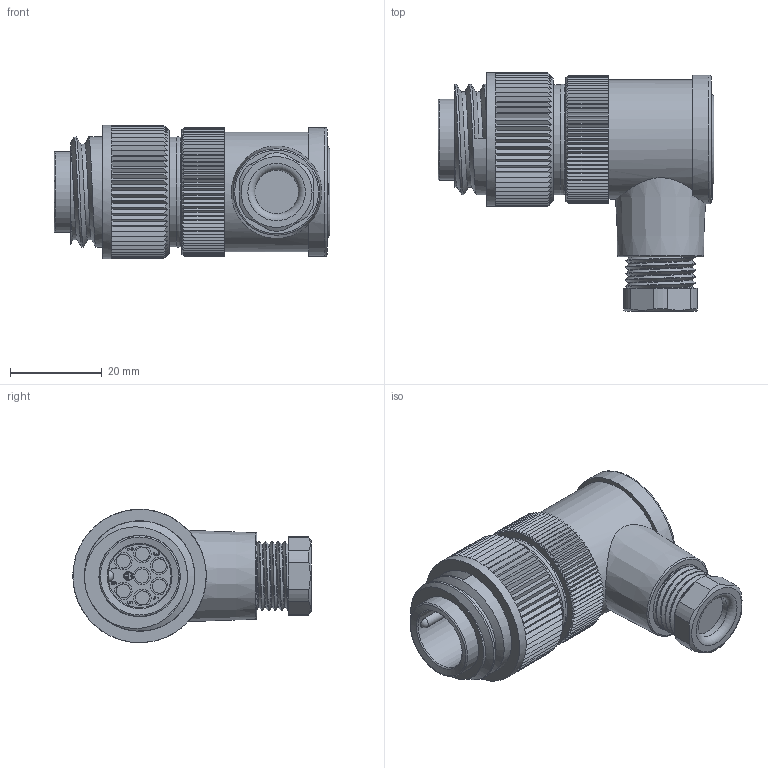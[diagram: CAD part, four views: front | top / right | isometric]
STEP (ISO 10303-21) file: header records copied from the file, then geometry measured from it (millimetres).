
FILE_DESCRIPTION(/* description */ (''),/* implementation_level */ '2;1');
FILE_NAME(/* name */ '99 0201 70 07 001_00.stp',/* time_stamp */ '2017-07-17T13:47:49+02:00',/* author */ (''),/* organization */ (''),/* preprocessor_version */ 'ST-DEVELOPER v16',/* originating_system */ 'SIEMENS PLM Software NX 11.0',/* authorisation */ '');
FILE_SCHEMA (('AUTOMOTIVE_DESIGN { 1 0 10303 214 3 1 1 1 }'));
Length unit declared in the file: millimetre
Products named in the file (1): smag0900B9A98ba5
Bounding box: 60 x 51.8 x 29 mm (x, y, z)
Volume: 34121.2 mm3; surface area: 16182.2 mm2
Topology: 1 solids, 3 shells, 694 faces, 1735 edges, 1093 vertices
Faces by surface type: plane 471, cone 105, cylinder 67, extrusion 28, bspline 11, torus 10, sphere 2
Full cylindrical faces by diameter (mm): 1.7 x1, 2 x1, 3.05 x7, 3.8 x1, 9.5 x1, 13.7 x1, 15.6 x1, 16.4 x1, 16.8 x1, 17.6 x1, 17.7 x1, 18.9 x1, 19.9 x1, 22.8 x1, 24 x2, 24.1 x1, 24.6 x1, 24.7 x1, 24.8 x1, 26 x1, 26.2 x1, 28 x1, 29 x1
Entity records: 26567 total; most frequent: CARTESIAN_POINT 11174, ORIENTED_EDGE 3306, DIRECTION 2800, EDGE_CURVE 1653, VERTEX_POINT 1062, VECTOR 946, AXIS2_PLACEMENT_3D 927, LINE 918
